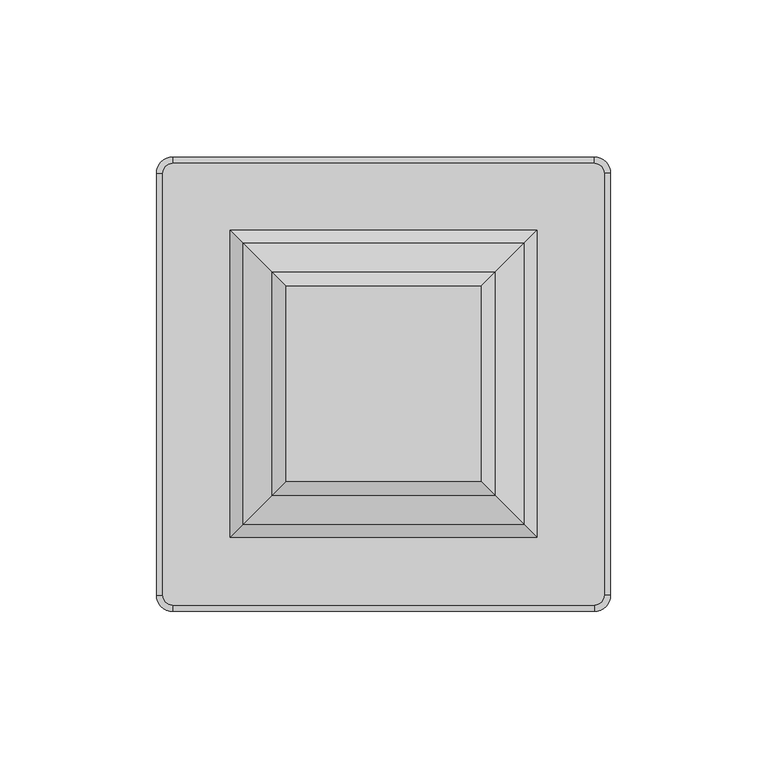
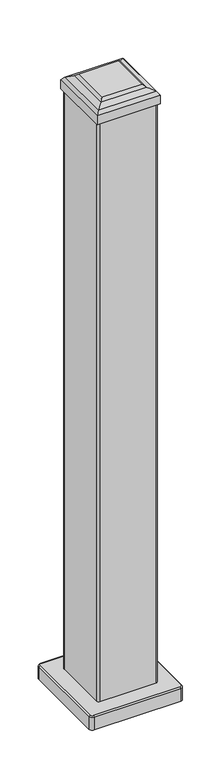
"""IFC4 building model written with IfcOpenShell, lengths in millimetres: railing geometry, NewTechWood - Westminister Gray."""

from ifc_helpers import new_model, si_unit, point, frame, frame_2d, origin, place, context, project, spatial, polyline, circle_curve, ellipse_curve, trimmed, segment, composite_curve, outline, extrude, faceted_brep, source, transform, mapped, element, save
from ifc_brep_helpers import plane_surface, cylinder_surface, revolved_surface, advanced_brep


def railing_139dafd8(model_context):
    return source(origin(), model_context, "Body", "SolidModel", [
        advanced_brep(
        [(-11588.7845942, 7856.3863921, 213.4891662), (-11591.9441616, 7853.2268247, 213.4891662), (-11591.9441616, 7718.5468247, 213.4891662), (-11588.7845942, 7715.3872573, 213.4891662), (-11454.1045942, 7715.3872573, 213.4891662), (-11450.9450268, 7718.5468247, 213.4891662), (-11450.9450268, 7853.2268247, 213.4891662), (-11454.1045942, 7856.3863921, 213.4891662), (-11448.9445942, 7718.5468247, 190.9891662), (-11454.1045942, 7713.3868247, 190.9891662), (-11588.7845942, 7713.3868247, 190.9891662), (-11593.9445942, 7718.5468247, 190.9891662), (-11593.9445942, 7853.2268247, 190.9891662), (-11588.7845942, 7858.3868247, 190.9891662), (-11454.1045942, 7858.3868247, 190.9891662), (-11448.9445942, 7853.2268247, 190.9891662), (-11448.9445942, 7853.2268247, 211.4887335), (-11448.9445942, 7718.5468247, 211.4887335), (-11454.1045942, 7858.3868247, 211.4887352), (-11588.7845942, 7858.3868247, 211.4887352), (-11593.9445942, 7853.2268247, 211.4887352), (-11593.9445942, 7718.5468247, 211.4887335), (-11588.7845942, 7713.3868247, 211.4887353), (-11454.1045942, 7713.3868247, 211.4887335)],
        [
            (0, 1, circle_curve(frame((-11588.7845942, 7853.2268247, 213.4891662), z_axis=(0.0, 0.0, 1.0), x_axis=(0.0, 1.0, 0.0)), 3.1595674)),
            (1, 2),
            (2, 3, circle_curve(frame((-11588.7845942, 7718.5468247, 213.4891662), z_axis=(0.0, 0.0, 1.0), x_axis=(-1.0, 0.0, 0.0)), 3.1595674)),
            (3, 4),
            (4, 5, circle_curve(frame((-11454.1045942, 7718.5468247, 213.4891662), z_axis=(0.0, 0.0, 1.0), x_axis=(0.0, -1.0, 0.0)), 3.1595674)),
            (5, 6),
            (6, 7, circle_curve(frame((-11454.1045942, 7853.2268247, 213.4891662), z_axis=(0.0, 0.0, 1.0), x_axis=(1.0, 0.0, 0.0)), 3.1595674)),
            (7, 0),
            (8, 9, circle_curve(frame((-11454.1045942, 7718.5468247, 190.9891662), z_axis=(0.0, 0.0, -1.0), x_axis=(0.0, -1.0, 0.0)), 5.16)),
            (9, 10),
            (10, 11, circle_curve(frame((-11588.7845942, 7718.5468247, 190.9891662), z_axis=(0.0, 0.0, -1.0), x_axis=(0.0, -1.0, 0.0)), 5.16)),
            (11, 12),
            (12, 13, circle_curve(frame((-11588.7845942, 7853.2268247, 190.9891662), z_axis=(0.0, 0.0, -1.0), x_axis=(0.0, -1.0, 0.0)), 5.16)),
            (13, 14),
            (14, 15, circle_curve(frame((-11454.1045942, 7853.2268247, 190.9891662), z_axis=(0.0, 0.0, -1.0), x_axis=(0.0, -1.0, 0.0)), 5.16)),
            (15, 8),
            (15, 16),
            (16, 17),
            (17, 8),
            (14, 18),
            (18, 16, circle_curve(frame((-11454.1045942, 7853.2268247, 211.4887335), z_axis=(0.0, 0.0, -1.0), x_axis=(0.0, -1.0, 0.0)), 5.16)),
            (13, 19),
            (19, 18),
            (12, 20),
            (20, 19, circle_curve(frame((-11588.7845942, 7853.2268247, 211.4887335), z_axis=(0.0, 0.0, -1.0), x_axis=(0.0, -1.0, 0.0)), 5.16)),
            (11, 21),
            (21, 20),
            (10, 22),
            (22, 21, circle_curve(frame((-11588.7845942, 7718.5468247, 211.4887335), z_axis=(0.0, 0.0, -1.0), x_axis=(0.0, -1.0, 0.0)), 5.16)),
            (9, 23),
            (23, 22),
            (17, 23, circle_curve(frame((-11454.1045942, 7718.5468247, 211.4887335), z_axis=(0.0, 0.0, -1.0), x_axis=(0.0, -1.0, 0.0)), 5.16)),
            (20, 1, circle_curve(frame((-11591.9441616, 7853.2268247, 211.4887335), z_axis=(0.0, 1.0, 0.0), x_axis=(1.0, 0.0, 0.0)), 2.0004326)),
            (0, 19, circle_curve(frame((-11588.7845942, 7856.3863921, 211.4887335), z_axis=(-1.0, 0.0, 0.0), x_axis=(0.0, -1.0, 0.0)), 2.0004326)),
            (21, 2, circle_curve(frame((-11591.9441616, 7718.5468247, 211.4887335), z_axis=(0.0, 1.0, 0.0), x_axis=(1.0, 0.0, 0.0)), 2.0004326)),
            (22, 3, circle_curve(frame((-11588.7845942, 7715.3872573, 211.4887335), z_axis=(-1.0, 0.0, 0.0), x_axis=(0.0, 1.0, 0.0)), 2.0004326)),
            (23, 4, circle_curve(frame((-11454.1045942, 7715.3872573, 211.4887335), z_axis=(-1.0, 0.0, 0.0), x_axis=(0.0, 1.0, 0.0)), 2.0004326)),
            (17, 5, circle_curve(frame((-11450.9450268, 7718.5468247, 211.4887335), z_axis=(0.0, -1.0, 0.0), x_axis=(-1.0, 0.0, 0.0)), 2.0004326)),
            (16, 6, circle_curve(frame((-11450.9450268, 7853.2268247, 211.4887335), z_axis=(0.0, -1.0, 0.0), x_axis=(-1.0, 0.0, 0.0)), 2.0004326)),
            (18, 7, circle_curve(frame((-11454.1045942, 7856.3863921, 211.4887335), z_axis=(1.0, 0.0, 0.0), x_axis=(0.0, -1.0, 0.0)), 2.0004326)),
        ],
        [
            plane_surface(frame((-11448.9445942, 7745.3228185, 213.4891662), z_axis=(0.0, 0.0, 1.0), x_axis=(0.0, 1.0, 0.0))),
            plane_surface(frame((-11448.9445942, 7745.3228185, 190.9891662), z_axis=(0.0, 0.0, -1.0), x_axis=(0.0, -1.0, 0.0))),
            plane_surface(frame((-11448.9445942, 7718.5468247, 213.4891662), z_axis=(1.0, 0.0, 0.0), x_axis=(0.0, 0.0, -1.0))),
            cylinder_surface(frame((-11454.1045942, 7853.2268247, 190.9891662), z_axis=(0.0, 0.0, 1.0), x_axis=(0.0, -1.0, 0.0)), 5.16),
            plane_surface(frame((-11454.1045942, 7858.3868247, 213.4891662), z_axis=(0.0, 1.0, 0.0), x_axis=(0.0, 0.0, -1.0))),
            cylinder_surface(frame((-11588.7845942, 7853.2268247, 190.9891662), z_axis=(0.0, 0.0, 1.0), x_axis=(0.0, -1.0, 0.0)), 5.16),
            plane_surface(frame((-11593.9445942, 7853.2268247, 213.4891662), z_axis=(-1.0, 0.0, 0.0), x_axis=(0.0, 0.0, -1.0))),
            cylinder_surface(frame((-11588.7845942, 7718.5468247, 190.9891662), z_axis=(0.0, 0.0, 1.0), x_axis=(0.0, -1.0, 0.0)), 5.16),
            plane_surface(frame((-11588.7845942, 7713.3868247, 213.4891662), z_axis=(0.0, -1.0, 0.0), x_axis=(0.0, 0.0, -1.0))),
            cylinder_surface(frame((-11454.1045942, 7718.5468247, 190.9891662), z_axis=(0.0, 0.0, 1.0), x_axis=(0.0, -1.0, 0.0)), 5.16),
            revolved_surface(trimmed(ellipse_curve(frame((-11588.7845942, 7856.3863921, 211.4887335), z_axis=(1.0, 0.0, 0.0), x_axis=(0.0, -1.0, 0.0)), 2.0004326, 2.0004326), [point((-11588.7845942, 7858.3868247, 211.4887335))], [point((-11588.7845942, 7856.3863921, 213.4891662))], True, "CARTESIAN"), (-11588.7845942, 7853.2268247, 213.4891662), (0.0, 0.0, 1.0)),
            cylinder_surface(frame((-11591.9441616, 7853.2268247, 211.4887335), z_axis=(0.0, -1.0, 0.0), x_axis=(1.0, 0.0, 0.0)), 2.0004326),
            revolved_surface(trimmed(ellipse_curve(frame((-11591.9441616, 7718.5468247, 211.4887335), z_axis=(0.0, 1.0, 0.0), x_axis=(1.0, 0.0, 0.0)), 2.0004326, 2.0004326), [point((-11593.9445942, 7718.5468247, 211.4887335))], [point((-11591.9441616, 7718.5468247, 213.4891662))], True, "CARTESIAN"), (-11588.7845942, 7718.5468247, 213.4891662), (0.0, 0.0, 1.0)),
            cylinder_surface(frame((-11588.7845942, 7715.3872573, 211.4887335), z_axis=(1.0, 0.0, 0.0), x_axis=(0.0, 1.0, 0.0)), 2.0004326),
            revolved_surface(trimmed(ellipse_curve(frame((-11454.1045942, 7715.3872573, 211.4887335), z_axis=(-1.0, 0.0, 0.0), x_axis=(0.0, 1.0, 0.0)), 2.0004326, 2.0004326), [point((-11454.1045942, 7713.3868247, 211.4887335))], [point((-11454.1045942, 7715.3872573, 213.4891662))], True, "CARTESIAN"), (-11454.1045942, 7718.5468247, 213.4891662), (0.0, 0.0, 1.0)),
            cylinder_surface(frame((-11450.9450268, 7718.5468247, 211.4887335), z_axis=(0.0, 1.0, 0.0), x_axis=(-1.0, 0.0, 0.0)), 2.0004326),
            revolved_surface(trimmed(ellipse_curve(frame((-11450.9450268, 7853.2268247, 211.4887335), z_axis=(0.0, -1.0, 0.0), x_axis=(-1.0, 0.0, 0.0)), 2.0004326, 2.0004326), [point((-11448.9445942, 7853.2268247, 211.4887335))], [point((-11450.9450268, 7853.2268247, 213.4891662))], True, "CARTESIAN"), (-11454.1045942, 7853.2268247, 213.4891662), (0.0, 0.0, 1.0)),
            cylinder_surface(frame((-11454.1045942, 7856.3863921, 211.4887335), z_axis=(-1.0, 0.0, 0.0), x_axis=(0.0, -1.0, 0.0)), 2.0004326),
        ],
        [
            (0, [[1, 2, 3, 4, 5, 6, 7, 8]]),
            (1, [[9, 10, 11, 12, 13, 14, 15, 16]]),
            (2, [[-16, 17, 18, 19]]),
            (3, [[-15, 20, 21, -17]]),
            (4, [[-14, 22, 23, -20]]),
            (5, [[-13, 24, 25, -22]]),
            (6, [[-12, 26, 27, -24]]),
            (7, [[-11, 28, 29, -26]]),
            (8, [[-10, 30, 31, -28]]),
            (9, [[-9, -19, 32, -30]]),
            (10, [[33, -1, 34, -25]]),
            (11, [[-33, -27, 35, -2]]),
            (12, [[-35, -29, 36, -3]]),
            (13, [[-36, -31, 37, -4]]),
            (14, [[-37, -32, 38, -5]]),
            (15, [[-38, -18, 39, -6]]),
            (16, [[-39, -21, 40, -7]]),
            (17, [[-34, -8, -40, -23]]),
        ],
    ),
        faceted_brep([(-11570.4945942, 7834.9368247, 1181.7588652), (-11570.4945942, 7834.9368247, 1167.1288652), (-11570.4945942, 7736.8368247, 1167.1288652), (-11570.4945942, 7736.8368247, 1181.7588652), (-11566.4619181, 7830.9041486, 1187.0717197), (-11566.4619181, 7740.8695008, 1187.0717197), (-11557.2368105, 7821.6790409, 1191.5850654), (-11557.2368105, 7750.0946084, 1191.5850654), (-11552.7400431, 7817.1822735, 1195.3891662), (-11552.7400431, 7754.5913758, 1195.3891662), (-11472.3945942, 7736.8368247, 1167.1288652), (-11472.3945942, 7736.8368247, 1181.7588652), (-11476.4272703, 7740.8695008, 1187.0717197), (-11485.652378, 7750.0946084, 1191.5850654), (-11490.1491454, 7754.5913758, 1195.3891662), (-11472.3945942, 7834.9368247, 1167.1288652), (-11472.3945942, 7834.9368247, 1181.7588652), (-11476.4272703, 7830.9041486, 1187.0717197), (-11485.652378, 7821.6790409, 1191.5850654), (-11490.1491454, 7817.1822735, 1195.3891662)], [[[0, 1, 2, 3]], [[4, 0, 3, 5]], [[6, 4, 5, 7]], [[8, 6, 7, 9]], [[3, 2, 10, 11]], [[5, 3, 11, 12]], [[7, 5, 12, 13]], [[9, 7, 13, 14]], [[11, 10, 15, 16]], [[12, 11, 16, 17]], [[13, 12, 17, 18]], [[14, 13, 18, 19]], [[16, 15, 1, 0]], [[17, 16, 0, 4]], [[18, 17, 4, 6]], [[19, 18, 6, 8]], [[9, 14, 19, 8]], [[1, 15, 10, 2]]]),
        extrude(outline(composite_curve([segment(trimmed(circle_curve(frame_2d((-11477.8545942, 7829.4768247)), 3.61), [point((-11477.8545942, 7833.0868247))], [point((-11474.2445942, 7829.4768247))], False, "CARTESIAN"), True, "CONTINUOUS"), segment(polyline([(-11474.2445942, 7829.4768247), (-11474.2445942, 7742.2968247)]), True, "CONTINUOUS"), segment(trimmed(circle_curve(frame_2d((-11477.8545942, 7742.2968247)), 3.61), [point((-11474.2445942, 7742.2968247))], [point((-11477.8545942, 7738.6868247))], False, "CARTESIAN"), True, "CONTINUOUS"), segment(polyline([(-11477.8545942, 7738.6868247), (-11565.0345942, 7738.6868247)]), True, "CONTINUOUS"), segment(trimmed(circle_curve(frame_2d((-11565.0345942, 7742.2968247)), 3.61), [point((-11565.0345942, 7738.6868247))], [point((-11568.6445942, 7742.2968247))], False, "CARTESIAN"), True, "CONTINUOUS"), segment(polyline([(-11568.6445942, 7742.2968247), (-11568.6445942, 7829.4768247)]), True, "CONTINUOUS"), segment(trimmed(circle_curve(frame_2d((-11565.0345942, 7829.4768247)), 3.61), [point((-11568.6445942, 7829.4768247))], [point((-11565.0345942, 7833.0868247))], False, "CARTESIAN"), True, "CONTINUOUS"), segment(polyline([(-11565.0345942, 7833.0868247), (-11477.8545942, 7833.0868247)]), True, "CONTINUOUS")], self_intersect=False)), frame((0.0, 0.0, 213.4891662), z_axis=(0.0, 0.0, 1.0), x_axis=(1.0, 0.0, 0.0)), (0.0, 0.0, 1.0), 953.639699),
    ])


if __name__ == "__main__":
    model = new_model("IFC4")
    model_context = context("Model", 3, world=origin())
    ifc_project = project(units=[si_unit("LENGTHUNIT", "METRE", prefix="MILLI")], contexts=[model_context])
    site = spatial("IfcSite", under=ifc_project)
    building = spatial("IfcBuilding", under=site)
    placement = place(None, origin())
    railing_shape = railing_139dafd8(model_context)
    element("IfcRailing", 1, ObjectType="NewTechWood - Westminister Gray", at=placement, inside=building, context=model_context, shape_type="MappedRepresentation", body=[
        mapped(railing_shape, transform((0.0, 0.0, 0.0), x_axis=(1.0, 0.0, 0.0), y_axis=(0.0, 1.0, 0.0), z_axis=(0.0, 0.0, 1.0))),
    ])
    save(model, "model.ifc")
